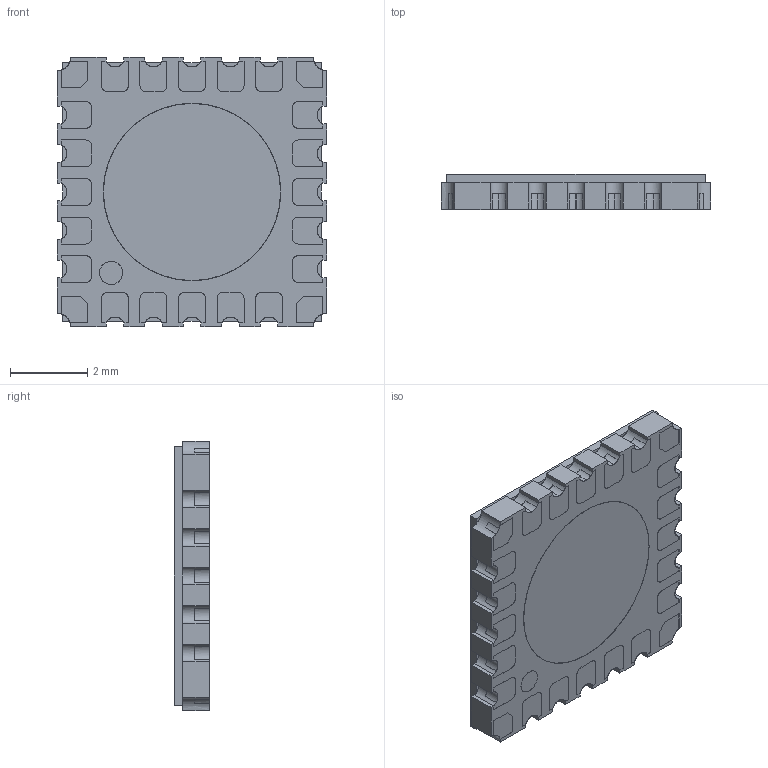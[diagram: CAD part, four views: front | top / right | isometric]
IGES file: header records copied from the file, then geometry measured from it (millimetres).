
Start section: SolidWorks IGES file using analytic representation for surfaces
Global section: file name: C:\P-Gold\Projects\Emitter_Packages\LZ7-15(15W)_07x07\Ceramic_LZ7_07x07\Release_LZ7-04MU00-P3_RevA1_03-23-16\LZ7-04MU00-P3_RevA1.IGS; native system: SolidWorks 2014; preprocessor: SolidWorks 2014; author: dadebiyi; date: 160323.184859; units: millimetre
Bounding box: 7 x 0.91 x 7 mm (x, y, z)
Surface area: 305.7 mm2 (no closed solid volume)
Topology: 0 solids, 0 shells, 714 faces, 5346 edges, 5346 vertices
Faces by surface type: bspline 550, revolution 164
